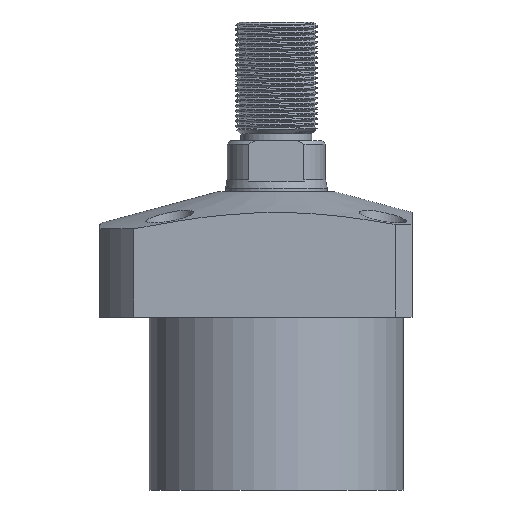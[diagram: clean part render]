
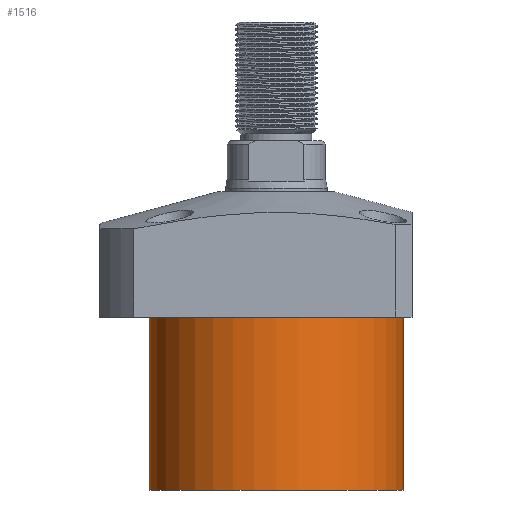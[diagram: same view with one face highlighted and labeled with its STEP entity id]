
A CAD part, front view. The second image highlights one B-rep face of the part: STEP entity #1516.
In plain terms, the highlighted cylindrical face has radius 37.5 mm (diameter 75 mm), a partial arc.
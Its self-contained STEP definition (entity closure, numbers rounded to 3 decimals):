
#124 = VERTEX_POINT ( 'NONE', #7035 ) ;
#221 = VERTEX_POINT ( 'NONE', #7152 ) ;
#378 = CARTESIAN_POINT ( 'NONE',  ( 0., 0., -18.5 ) ) ;
#410 = VECTOR ( 'NONE', #5088, 1000. ) ;
#536 = EDGE_LOOP ( 'NONE', ( #4893, #2744, #1411, #3630 ) ) ;
#1129 = FACE_OUTER_BOUND ( 'NONE', #536, .T. ) ;
#1371 = DIRECTION ( 'NONE',  ( 0., 0., 1. ) ) ;
#1411 = ORIENTED_EDGE ( 'NONE', *, *, #1606, .T. ) ;
#1516 = ADVANCED_FACE ( 'NONE', ( #1129 ), #1881, .T. ) ;
#1582 = CARTESIAN_POINT ( 'NONE',  ( 37.5, 0., -69.5 ) ) ;
#1606 = EDGE_CURVE ( 'NONE', #1791, #221, #6276, .T. ) ;
#1791 = VERTEX_POINT ( 'NONE', #4698 ) ;
#1881 = CYLINDRICAL_SURFACE ( 'NONE', #5744, 37.5 ) ;
#2246 = DIRECTION ( 'NONE',  ( 1., 0., 0. ) ) ;
#2257 = EDGE_CURVE ( 'NONE', #1791, #7622, #7992, .T. ) ;
#2384 = AXIS2_PLACEMENT_3D ( 'NONE', #5989, #6550, #5288 ) ;
#2744 = ORIENTED_EDGE ( 'NONE', *, *, #2257, .F. ) ;
#3313 = DIRECTION ( 'NONE',  ( 1., 0., 0. ) ) ;
#3630 = ORIENTED_EDGE ( 'NONE', *, *, #7620, .T. ) ;
#3693 = LINE ( 'NONE', #6263, #410 ) ;
#4698 = CARTESIAN_POINT ( 'NONE',  ( 37.5, 0., -69.5 ) ) ;
#4893 = ORIENTED_EDGE ( 'NONE', *, *, #8017, .F. ) ;
#5007 = AXIS2_PLACEMENT_3D ( 'NONE', #378, #5868, #2246 ) ;
#5088 = DIRECTION ( 'NONE',  ( 0., 0., 1. ) ) ;
#5288 = DIRECTION ( 'NONE',  ( -1., 0., 0. ) ) ;
#5356 = DIRECTION ( 'NONE',  ( 0., 0., 1. ) ) ;
#5744 = AXIS2_PLACEMENT_3D ( 'NONE', #7586, #1371, #3313 ) ;
#5868 = DIRECTION ( 'NONE',  ( 0., 0., -1. ) ) ;
#5989 = CARTESIAN_POINT ( 'NONE',  ( 0., 0., -69.5 ) ) ;
#6263 = CARTESIAN_POINT ( 'NONE',  ( -37.5, 0., -69.5 ) ) ;
#6276 = LINE ( 'NONE', #1582, #7038 ) ;
#6530 = CIRCLE ( 'NONE', #5007, 37.5 ) ;
#6550 = DIRECTION ( 'NONE',  ( 0., 0., -1. ) ) ;
#6594 = CARTESIAN_POINT ( 'NONE',  ( -37.5, 0., -69.5 ) ) ;
#7035 = CARTESIAN_POINT ( 'NONE',  ( -37.5, 0., -18.5 ) ) ;
#7038 = VECTOR ( 'NONE', #5356, 1000. ) ;
#7152 = CARTESIAN_POINT ( 'NONE',  ( 37.5, 0., -18.5 ) ) ;
#7586 = CARTESIAN_POINT ( 'NONE',  ( 0., 0., -69.5 ) ) ;
#7620 = EDGE_CURVE ( 'NONE', #221, #124, #6530, .T. ) ;
#7622 = VERTEX_POINT ( 'NONE', #6594 ) ;
#7992 = CIRCLE ( 'NONE', #2384, 37.5 ) ;
#8017 = EDGE_CURVE ( 'NONE', #7622, #124, #3693, .T. ) ;
